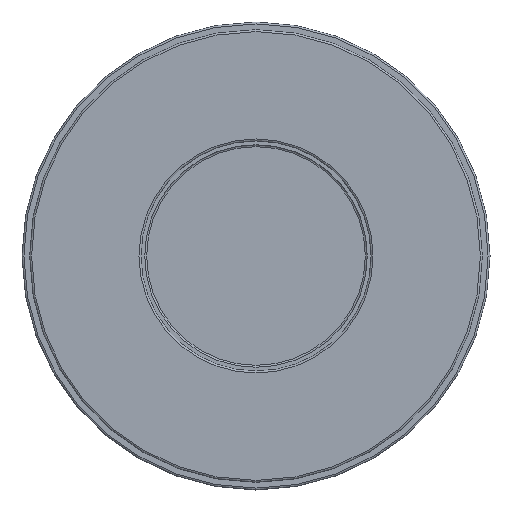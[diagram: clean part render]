
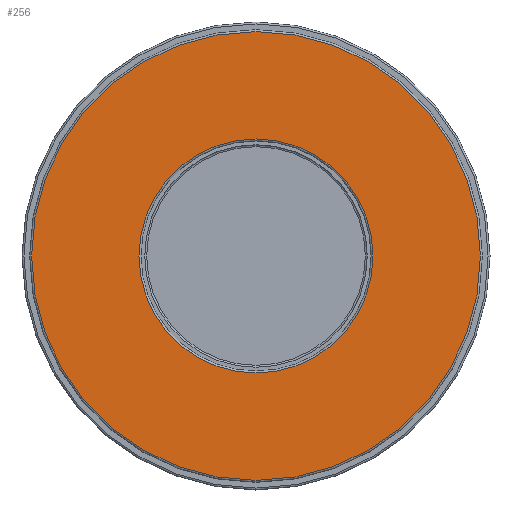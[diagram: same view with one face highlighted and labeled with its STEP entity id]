
A CAD part, front view. The second image highlights one B-rep face of the part: STEP entity #256.
In plain terms, the highlighted planar face has unit normal (0, -1, 0).
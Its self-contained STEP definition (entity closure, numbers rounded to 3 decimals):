
#256=ADVANCED_FACE('',(#3564,#3566),#3568,.T.);
#3564=FACE_BOUND('',#3565,.T.);
#3565=EDGE_LOOP('',(#4394,#4395));
#3566=FACE_BOUND('',#3567,.T.);
#3567=EDGE_LOOP('',(#4396,#4397));
#3568=PLANE('',#3569);
#3569=AXIS2_PLACEMENT_3D('',#3570,#3571,#3572);
#3570=CARTESIAN_POINT('',(0.,-25.,0.));
#3571=DIRECTION('',(0.,-1.,0.));
#3572=DIRECTION('',(0.,0.,1.));
#4394=ORIENTED_EDGE('',*,*,#4800,.F.);
#4395=ORIENTED_EDGE('',*,*,#4799,.F.);
#4396=ORIENTED_EDGE('',*,*,#4801,.T.);
#4397=ORIENTED_EDGE('',*,*,#4802,.T.);
#4799=EDGE_CURVE('',#5366,#5367,#5368,.T.);
#4800=EDGE_CURVE('',#5367,#5366,#5369,.T.);
#4801=EDGE_CURVE('',#5370,#5371,#5372,.T.);
#4802=EDGE_CURVE('',#5371,#5370,#5373,.T.);
#5366=VERTEX_POINT('',#9351);
#5367=VERTEX_POINT('',#9352);
#5368=CIRCLE('',#9353,58.5);
#5369=CIRCLE('',#9357,58.5);
#5370=VERTEX_POINT('',#9361);
#5371=VERTEX_POINT('',#9362);
#5372=CIRCLE('',#9363,30.5);
#5373=CIRCLE('',#9367,30.5);
#9351=CARTESIAN_POINT('',(0.,-25.,58.5));
#9352=CARTESIAN_POINT('',(0.,-25.,-58.5));
#9353=AXIS2_PLACEMENT_3D('',#9354,#9355,#9356);
#9354=CARTESIAN_POINT('',(0.,-25.,0.));
#9355=DIRECTION('',(0.,1.,0.));
#9356=DIRECTION('',(0.,0.,1.));
#9357=AXIS2_PLACEMENT_3D('',#9358,#9359,#9360);
#9358=CARTESIAN_POINT('',(0.,-25.,0.));
#9359=DIRECTION('',(0.,1.,0.));
#9360=DIRECTION('',(0.,0.,-1.));
#9361=CARTESIAN_POINT('',(0.,-25.,30.5));
#9362=CARTESIAN_POINT('',(0.,-25.,-30.5));
#9363=AXIS2_PLACEMENT_3D('',#9364,#9365,#9366);
#9364=CARTESIAN_POINT('',(0.,-25.,0.));
#9365=DIRECTION('',(0.,1.,0.));
#9366=DIRECTION('',(0.,0.,1.));
#9367=AXIS2_PLACEMENT_3D('',#9368,#9369,#9370);
#9368=CARTESIAN_POINT('',(0.,-25.,0.));
#9369=DIRECTION('',(0.,1.,0.));
#9370=DIRECTION('',(0.,0.,-1.));
